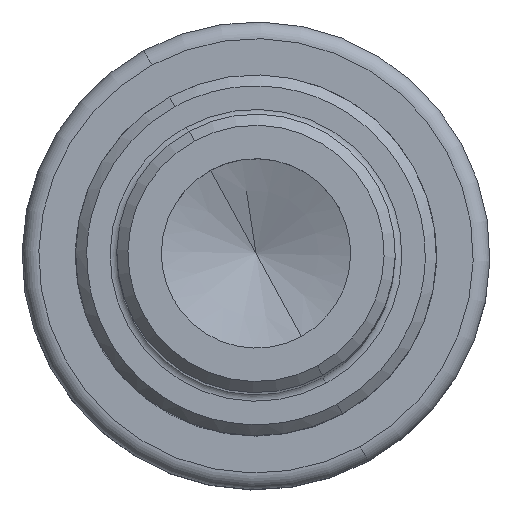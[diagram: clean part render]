
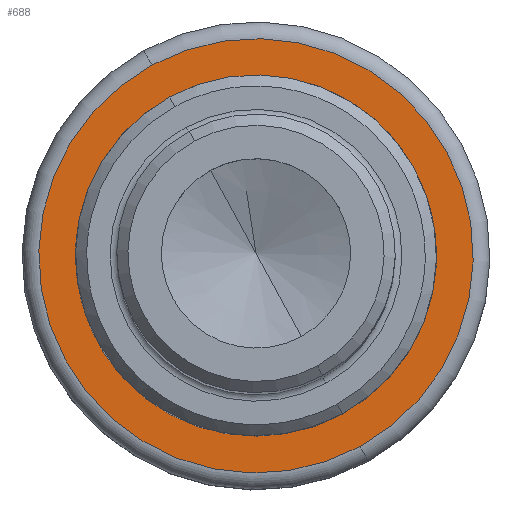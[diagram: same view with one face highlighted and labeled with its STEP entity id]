
A CAD part, top view. The second image highlights one B-rep face of the part: STEP entity #688.
In plain terms, the highlighted planar face has unit normal (0, 0, 1).
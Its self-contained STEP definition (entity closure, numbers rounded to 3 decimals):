
#639=AXIS2_PLACEMENT_3D('Circle Axis2P3D',#637,#638,$) ;
#651=AXIS2_PLACEMENT_3D('Circle Axis2P3D',#649,#650,$) ;
#664=AXIS2_PLACEMENT_3D('Plane Axis2P3D',#661,#662,#663) ;
#668=AXIS2_PLACEMENT_3D('Circle Axis2P3D',#666,#667,$) ;
#677=AXIS2_PLACEMENT_3D('Circle Axis2P3D',#675,#676,$) ;
#627=CARTESIAN_POINT('Vertex',(7.671,14.041,-126.)) ;
#634=CARTESIAN_POINT('Vertex',(-7.671,-14.041,-126.)) ;
#637=CARTESIAN_POINT('Axis2P3D Location',(0.,0.,-126.)) ;
#649=CARTESIAN_POINT('Axis2P3D Location',(0.,0.,-126.)) ;
#661=CARTESIAN_POINT('Axis2P3D Location',(0.,0.,-126.)) ;
#666=CARTESIAN_POINT('Axis2P3D Location',(0.,0.,-126.)) ;
#670=CARTESIAN_POINT('Vertex',(-9.349,17.113,-126.)) ;
#672=CARTESIAN_POINT('Vertex',(9.349,-17.113,-126.)) ;
#675=CARTESIAN_POINT('Axis2P3D Location',(0.,0.,-126.)) ;
#638=DIRECTION('Axis2P3D Direction',(0.,0.,-1.)) ;
#650=DIRECTION('Axis2P3D Direction',(0.,0.,-1.)) ;
#662=DIRECTION('Axis2P3D Direction',(0.,0.,1.)) ;
#663=DIRECTION('Axis2P3D XDirection',(1.,0.,0.)) ;
#667=DIRECTION('Axis2P3D Direction',(0.,0.,1.)) ;
#676=DIRECTION('Axis2P3D Direction',(0.,0.,1.)) ;
#681=ORIENTED_EDGE('',*,*,#674,.T.) ;
#682=ORIENTED_EDGE('',*,*,#679,.T.) ;
#685=ORIENTED_EDGE('',*,*,#641,.F.) ;
#686=ORIENTED_EDGE('',*,*,#653,.F.) ;
#687=FACE_BOUND('',#684,.T.) ;
#688=ADVANCED_FACE('NOCUT',(#683,#687),#665,.T.) ;
#640=CIRCLE('generated circle',#639,16.) ;
#652=CIRCLE('generated circle',#651,16.) ;
#669=CIRCLE('generated circle',#668,19.5) ;
#678=CIRCLE('generated circle',#677,19.5) ;
#641=EDGE_CURVE('',#635,#628,#640,.F.) ;
#653=EDGE_CURVE('',#628,#635,#652,.F.) ;
#674=EDGE_CURVE('',#671,#673,#669,.T.) ;
#679=EDGE_CURVE('',#673,#671,#678,.T.) ;
#680=EDGE_LOOP('',(#681,#682)) ;
#684=EDGE_LOOP('',(#685,#686)) ;
#683=FACE_OUTER_BOUND('',#680,.T.) ;
#665=PLANE('',#664) ;
#628=VERTEX_POINT('',#627) ;
#635=VERTEX_POINT('',#634) ;
#671=VERTEX_POINT('',#670) ;
#673=VERTEX_POINT('',#672) ;
